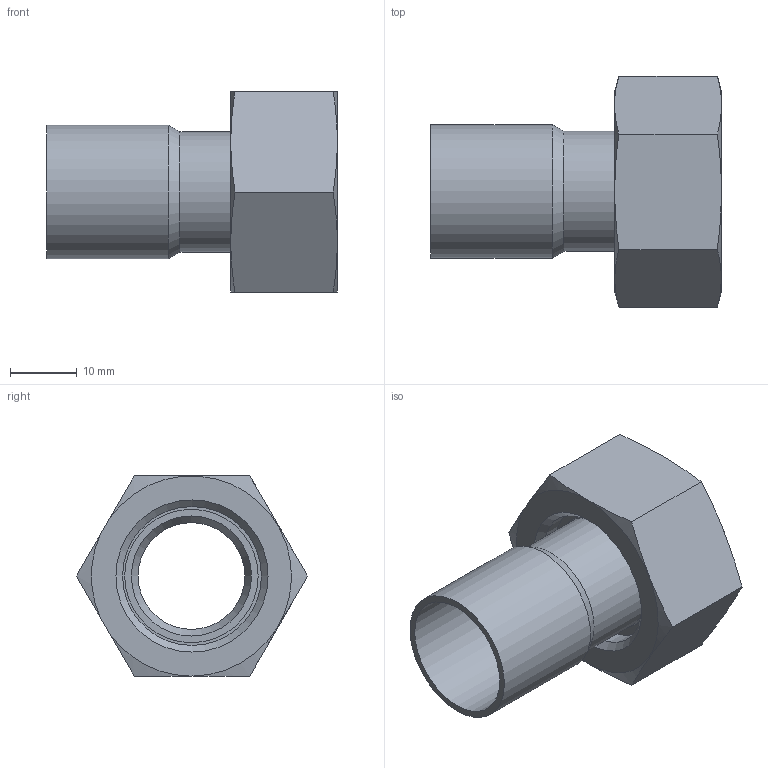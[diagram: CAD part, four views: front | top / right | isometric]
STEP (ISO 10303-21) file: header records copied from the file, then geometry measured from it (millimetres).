
FILE_DESCRIPTION((''),'2;1');
FILE_NAME('G:\SANHA-TERNAT\Technik\Management\Bouwmaten + markeringen\z-maattekeningen 3D\5000\5359G\15359G1834.stp','2014-08-26T16:08:00',('vdvijverd'),(''),'Autodesk Inventor 2009','Autodesk Inventor 2009','');
FILE_SCHEMA(('AUTOMOTIVE_DESIGN { 1 0 10303 214 1 1 1 1 }'));
Length unit declared in the file: millimetre
Products named in the file (4): 15359G1834; 5359G1834; centel_34; BB1A006_34
Assembly tree (3 placements, depth 2):
  15359G1834
    5359G1834
    centel_34
    BB1A006_34
Bounding box: 43.6 x 34.64 x 30 mm (x, y, z)
Volume: 7895.8 mm3; surface area: 8395 mm2
Topology: 3 solids, 3 shells, 36 faces, 77 edges, 49 vertices
Faces by surface type: plane 14, cone 10, cylinder 8, bspline 2, torus 2
Full cylindrical faces by diameter (mm): 16 x1, 18 x2, 20 x2, 20.8 x1, 23.8 x1, 24.117 x1
Entity records: 1078 total; most frequent: CARTESIAN_POINT 259, DIRECTION 156, ORIENTED_EDGE 122, AXIS2_PLACEMENT_3D 72, EDGE_CURVE 61, EDGE_LOOP 60, VERTEX_POINT 49, FACE_OUTER_BOUND 36
